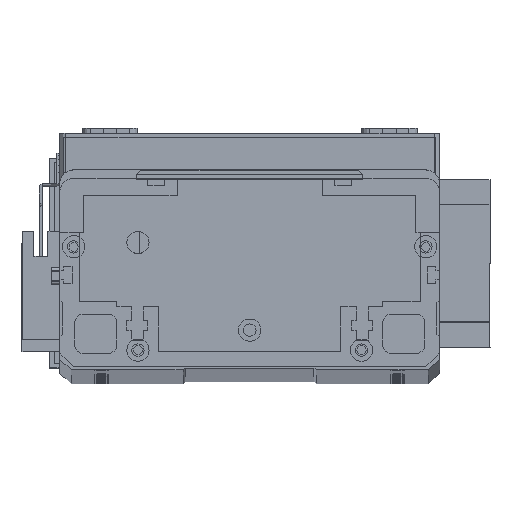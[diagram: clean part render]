
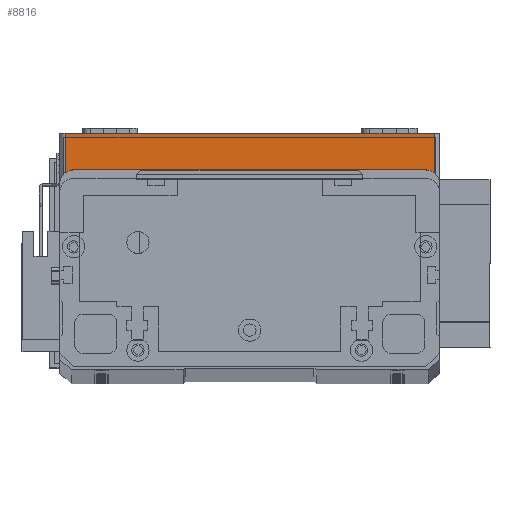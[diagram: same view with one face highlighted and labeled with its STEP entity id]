
A CAD part, top view. The second image highlights one B-rep face of the part: STEP entity #8816.
In plain terms, the highlighted planar face has unit normal (0, 0, 1) as drawn and (0, -1, 0) by its records, which use the part's own axes.
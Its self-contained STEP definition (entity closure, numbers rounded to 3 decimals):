
#157 = CARTESIAN_POINT ( 'NONE',  ( 0., 0., 19.5 ) ) ;
#891 = LINE ( 'NONE', #157, #15099 ) ;
#1998 = DIRECTION ( 'NONE',  ( 0., 0., 1. ) ) ;
#2752 = CARTESIAN_POINT ( 'NONE',  ( 0., 0., 19.5 ) ) ;
#2930 = VERTEX_POINT ( 'NONE', #6554 ) ;
#3018 = VERTEX_POINT ( 'NONE', #11678 ) ;
#5068 = VERTEX_POINT ( 'NONE', #25028 ) ;
#5182 = DIRECTION ( 'NONE',  ( 0., 1., 0. ) ) ;
#6554 = CARTESIAN_POINT ( 'NONE',  ( 134., 0., 19.5 ) ) ;
#6719 = VERTEX_POINT ( 'NONE', #18473 ) ;
#7301 = VECTOR ( 'NONE', #25225, 1000. ) ;
#7535 = FACE_OUTER_BOUND ( 'NONE', #27547, .T. ) ;
#8304 = ORIENTED_EDGE ( 'NONE', *, *, #30426, .T. ) ;
#8771 = ORIENTED_EDGE ( 'NONE', *, *, #14288, .F. ) ;
#8816 = ADVANCED_FACE ( 'NONE', ( #7535 ), #21832, .F. ) ;
#9171 = CARTESIAN_POINT ( 'NONE',  ( 2., 0., 19.5 ) ) ;
#11669 = LINE ( 'NONE', #13902, #17287 ) ;
#11678 = CARTESIAN_POINT ( 'NONE',  ( 2., 0., 0. ) ) ;
#12060 = DIRECTION ( 'NONE',  ( 1., 0., 0. ) ) ;
#12769 = ORIENTED_EDGE ( 'NONE', *, *, #25870, .T. ) ;
#13385 = EDGE_CURVE ( 'NONE', #3018, #5068, #13659, .T. ) ;
#13659 = LINE ( 'NONE', #22817, #7301 ) ;
#13902 = CARTESIAN_POINT ( 'NONE',  ( 134., 0., 19.5 ) ) ;
#14288 = EDGE_CURVE ( 'NONE', #6719, #2930, #891, .T. ) ;
#15099 = VECTOR ( 'NONE', #12060, 1000. ) ;
#17287 = VECTOR ( 'NONE', #1998, 1000. ) ;
#18259 = AXIS2_PLACEMENT_3D ( 'NONE', #2752, #5182, #21935 ) ;
#18473 = CARTESIAN_POINT ( 'NONE',  ( 2., 0., 19.5 ) ) ;
#21832 = PLANE ( 'NONE',  #18259 ) ;
#21935 = DIRECTION ( 'NONE',  ( 0., 0., 1. ) ) ;
#22435 = LINE ( 'NONE', #9171, #29554 ) ;
#22817 = CARTESIAN_POINT ( 'NONE',  ( 0., 0., 0. ) ) ;
#24548 = ORIENTED_EDGE ( 'NONE', *, *, #13385, .T. ) ;
#25028 = CARTESIAN_POINT ( 'NONE',  ( 134., 0., 0. ) ) ;
#25225 = DIRECTION ( 'NONE',  ( 1., 0., 0. ) ) ;
#25870 = EDGE_CURVE ( 'NONE', #5068, #2930, #11669, .T. ) ;
#25918 = DIRECTION ( 'NONE',  ( 0., 0., -1. ) ) ;
#27547 = EDGE_LOOP ( 'NONE', ( #8771, #8304, #24548, #12769 ) ) ;
#29554 = VECTOR ( 'NONE', #25918, 1000. ) ;
#30426 = EDGE_CURVE ( 'NONE', #6719, #3018, #22435, .T. ) ;
